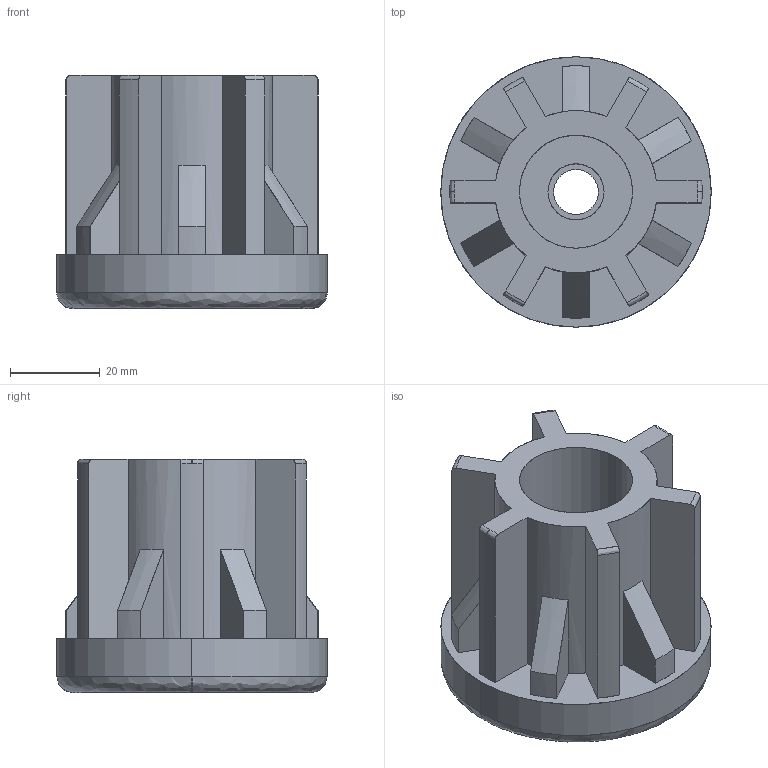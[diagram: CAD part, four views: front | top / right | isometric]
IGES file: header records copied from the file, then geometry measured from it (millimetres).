
Start section: SolidWorks IGES file using analytic representation for surfaces
Global section: file name: Y:\Tecnodin, S.L\PLAPP-Dirección - Documentos\General\Models CAD\Actiby\42006460310.IGS; native system: SolidWorks 2018; preprocessor: SolidWorks 2018; author: GerPro; date: 200225.181908; units: millimetre
Bounding box: 60.3 x 60.3 x 52 mm (x, y, z)
Surface area: 22225.1 mm2 (no closed solid volume)
Topology: 0 solids, 0 shells, 99 faces, 1118 edges, 1118 vertices
Faces by surface type: revolution 50, bspline 49
